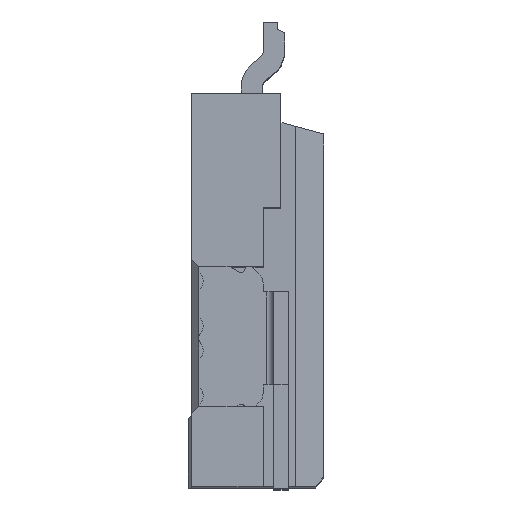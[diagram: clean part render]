
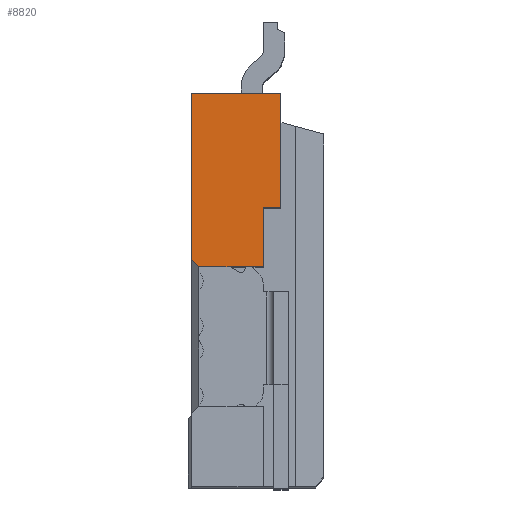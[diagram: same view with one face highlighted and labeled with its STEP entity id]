
A CAD part, top view. The second image highlights one B-rep face of the part: STEP entity #8820.
In plain terms, the highlighted planar face has unit normal (0, 0, 1).
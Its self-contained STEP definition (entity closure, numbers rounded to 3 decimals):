
#1097=DIRECTION('',(0.,1.,0.));
#1098=VECTOR('',#1097,0.825);
#1099=CARTESIAN_POINT('',(1.05,3.075,0.));
#1100=LINE('',#1099,#1098);
#1109=DIRECTION('',(-0.707,0.707,0.));
#1110=VECTOR('',#1109,0.141);
#1111=CARTESIAN_POINT('',(0.15,3.075,0.));
#1112=LINE('',#1111,#1110);
#1113=DIRECTION('',(0.,1.,0.));
#1114=VECTOR('',#1113,2.325);
#1115=CARTESIAN_POINT('',(0.05,3.175,0.));
#1116=LINE('',#1115,#1114);
#1117=DIRECTION('',(1.,0.,0.));
#1118=VECTOR('',#1117,1.25);
#1119=CARTESIAN_POINT('',(0.05,5.5,0.));
#1120=LINE('',#1119,#1118);
#1121=DIRECTION('',(-1.,0.,0.));
#1122=VECTOR('',#1121,0.9);
#1123=CARTESIAN_POINT('',(1.05,3.075,0.));
#1124=LINE('',#1123,#1122);
#1133=DIRECTION('',(0.,1.,0.));
#1134=VECTOR('',#1133,1.6);
#1135=CARTESIAN_POINT('',(1.3,3.9,0.));
#1136=LINE('',#1135,#1134);
#2125=DIRECTION('',(1.,0.,0.));
#2126=VECTOR('',#2125,0.25);
#2127=CARTESIAN_POINT('',(1.05,3.9,0.));
#2128=LINE('',#2127,#2126);
#5335=CARTESIAN_POINT('',(1.3,5.5,0.));
#5336=VERTEX_POINT('',#5335);
#5337=CARTESIAN_POINT('',(0.05,5.5,0.));
#5338=VERTEX_POINT('',#5337);
#5441=CARTESIAN_POINT('',(0.05,3.175,0.));
#5442=VERTEX_POINT('',#5441);
#5651=CARTESIAN_POINT('',(1.05,3.075,0.));
#5652=CARTESIAN_POINT('',(0.15,3.075,0.));
#5653=VERTEX_POINT('',#5651);
#5654=VERTEX_POINT('',#5652);
#5655=CARTESIAN_POINT('',(1.05,3.9,0.));
#5656=CARTESIAN_POINT('',(1.3,3.9,0.));
#5657=VERTEX_POINT('',#5655);
#5658=VERTEX_POINT('',#5656);
#8804=CARTESIAN_POINT('',(0.675,4.288,0.));
#8805=DIRECTION('',(0.,0.,1.));
#8806=DIRECTION('',(1.,0.,0.));
#8807=AXIS2_PLACEMENT_3D('',#8804,#8805,#8806);
#8808=PLANE('',#8807);
#8809=ORIENTED_EDGE('',*,*,#8196,.T.);
#8810=ORIENTED_EDGE('',*,*,#7429,.T.);
#8811=ORIENTED_EDGE('',*,*,#7262,.T.);
#8813=ORIENTED_EDGE('',*,*,#8812,.F.);
#8815=ORIENTED_EDGE('',*,*,#8814,.F.);
#8816=ORIENTED_EDGE('',*,*,#8796,.F.);
#8817=ORIENTED_EDGE('',*,*,#8215,.T.);
#8818=EDGE_LOOP('',(#8809,#8810,#8811,#8813,#8815,#8816,#8817));
#8819=FACE_OUTER_BOUND('',#8818,.F.);
#7262=EDGE_CURVE('',#5338,#5336,#1120,.T.);
#7429=EDGE_CURVE('',#5442,#5338,#1116,.T.);
#8196=EDGE_CURVE('',#5654,#5442,#1112,.T.);
#8215=EDGE_CURVE('',#5653,#5654,#1124,.T.);
#8796=EDGE_CURVE('',#5653,#5657,#1100,.T.);
#8812=EDGE_CURVE('',#5658,#5336,#1136,.T.);
#8814=EDGE_CURVE('',#5657,#5658,#2128,.T.);
#8820=ADVANCED_FACE('',(#8819),#8808,.T.);
